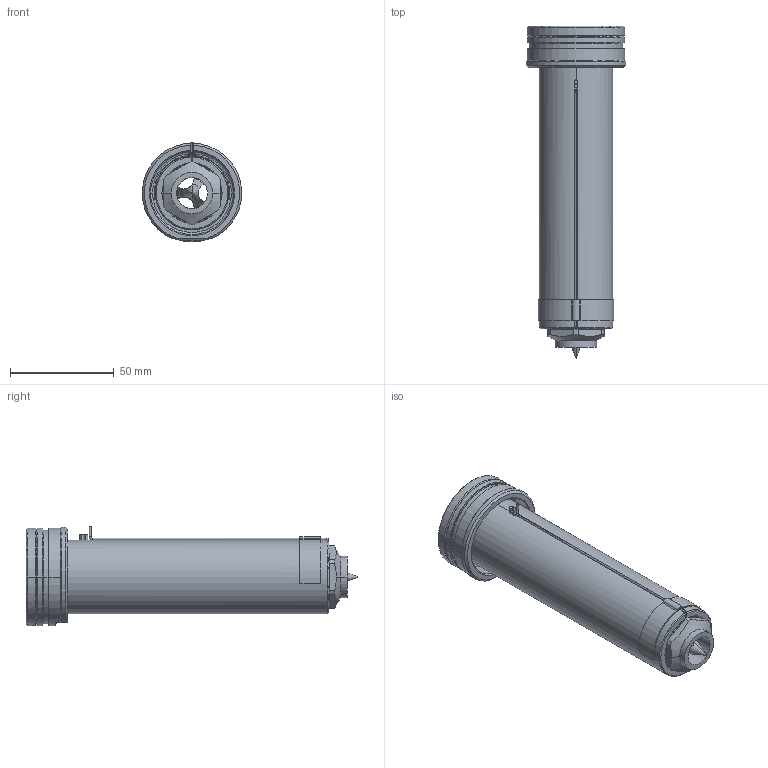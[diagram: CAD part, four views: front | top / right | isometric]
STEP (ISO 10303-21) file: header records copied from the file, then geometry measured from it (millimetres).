
FILE_DESCRIPTION((''),'2;1');
FILE_NAME('EO16_PG-BL_STD_140_SW','2024-02-19T11:17:11',('sundharh'),(''),'CREO PARAMETRIC BY PTC INC, 2023154','CREO PARAMETRIC BY PTC INC, 2023154','');
FILE_SCHEMA(('CONFIG_CONTROL_DESIGN'));
Length unit declared in the file: millimetre
Products named in the file (1): EO16_PG-BL_STD_140_SW
Bounding box: 47.97 x 160 x 48 mm (x, y, z)
Volume: 132441.3 mm3; surface area: 34989.2 mm2
Topology: 1 solids, 1 shells, 200 faces, 526 edges, 325 vertices
Faces by surface type: cylinder 79, plane 59, cone 39, torus 14, bspline 7, sphere 2
Entity records: 7338 total; most frequent: CARTESIAN_POINT 2297, DIRECTION 1113, ORIENTED_EDGE 1040, EDGE_CURVE 520, AXIS2_PLACEMENT_3D 464, VERTEX_POINT 325, CIRCLE 271, EDGE_LOOP 217
